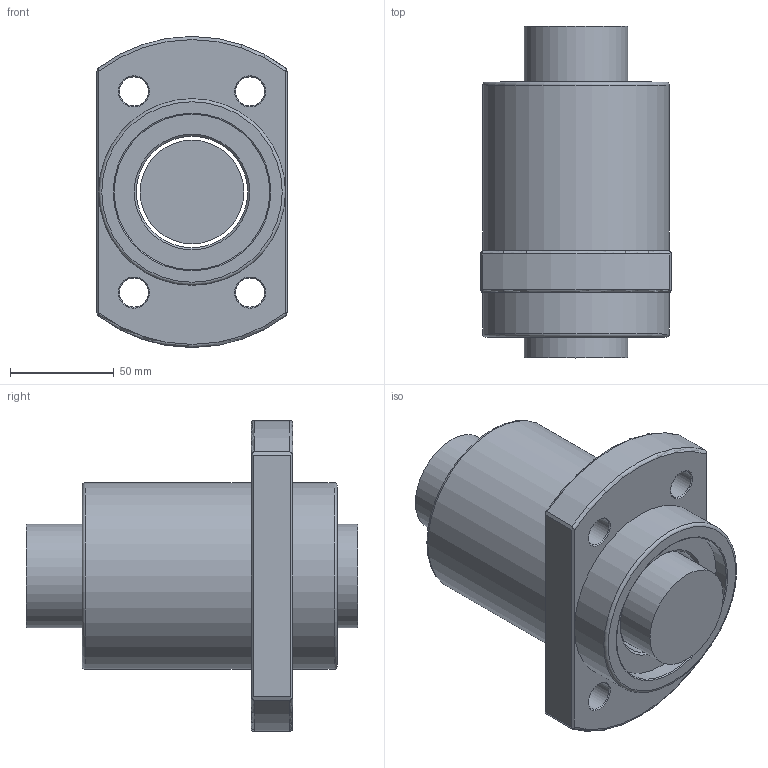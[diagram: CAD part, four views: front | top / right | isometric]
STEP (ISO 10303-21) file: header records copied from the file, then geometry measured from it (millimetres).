
FILE_DESCRIPTION(/* description */ (''),/* implementation_level */ '2;1');
FILE_NAME(/* name */ '5050.prt.step',/* time_stamp */ '2008-12-05T09:32:04+08:00',/* author */ (''),/* organization */ (''),/* preprocessor_version */ 'ST-DEVELOPER v11',/* originating_system */ 'SIEMENS UGS NX 6.0',/* authorisation */ '');
FILE_SCHEMA (('AUTOMOTIVE_DESIGN { 1 0 10303 214 1 1 1 1 }'));
Length unit declared in the file: millimetre
Products named in the file (1): 5050
Bounding box: 92 x 160 x 150 mm (x, y, z)
Volume: 902622.6 mm3; surface area: 110790.1 mm2
Topology: 2 solids, 2 shells, 54 faces, 127 edges, 79 vertices
Faces by surface type: plane 20, cylinder 12, cone 10, torus 8, bspline 4
Full cylindrical faces by diameter (mm): 14 x4, 49.95 x1, 53.7 x1, 75 x2, 90 x2
Entity records: 1632 total; most frequent: CARTESIAN_POINT 503, DIRECTION 216, ORIENTED_EDGE 196, EDGE_CURVE 98, AXIS2_PLACEMENT_3D 95, EDGE_LOOP 90, VERTEX_POINT 74, FACE_BOUND 68
